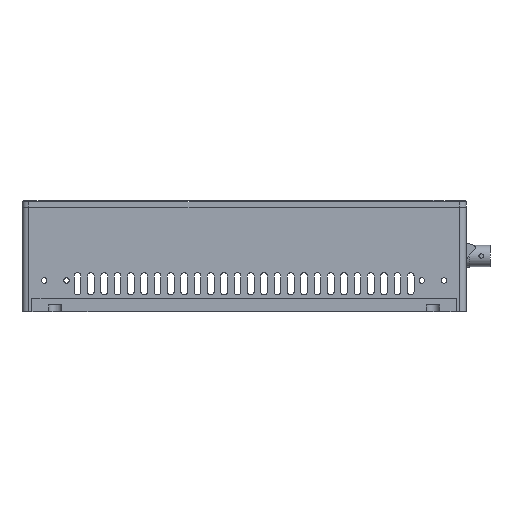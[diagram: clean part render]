
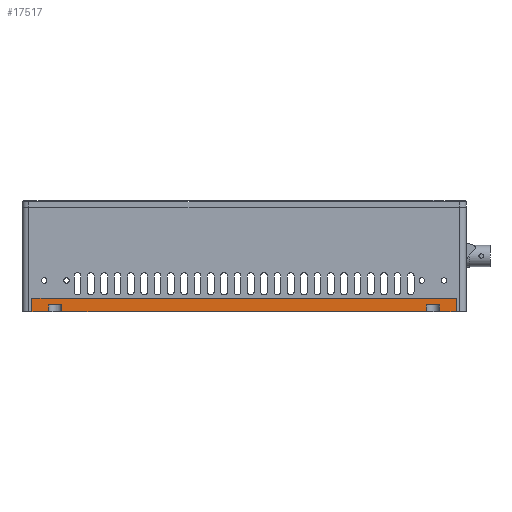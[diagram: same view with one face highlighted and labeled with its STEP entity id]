
A CAD part, left-side view. The second image highlights one B-rep face of the part: STEP entity #17517.
In plain terms, the highlighted planar face has unit normal (-1, 0, 0).
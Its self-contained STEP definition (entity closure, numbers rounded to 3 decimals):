
#454 = EDGE_CURVE ( 'NONE', #18395, #8575, #20760, .T. ) ;
#650 = AXIS2_PLACEMENT_3D ( 'NONE', #16638, #32799, #21778 ) ;
#853 = DIRECTION ( 'NONE',  ( 0., 0., -1. ) ) ;
#1071 = CARTESIAN_POINT ( 'NONE',  ( -231.129, 161.443, -30.083 ) ) ;
#1220 = ORIENTED_EDGE ( 'NONE', *, *, #4046, .F. ) ;
#2297 = ORIENTED_EDGE ( 'NONE', *, *, #27422, .F. ) ;
#2399 = ORIENTED_EDGE ( 'NONE', *, *, #13377, .F. ) ;
#2438 = VERTEX_POINT ( 'NONE', #12814 ) ;
#2510 = LINE ( 'NONE', #34519, #3325 ) ;
#2571 = DIRECTION ( 'NONE',  ( 0., 0., -1. ) ) ;
#2602 = CARTESIAN_POINT ( 'NONE',  ( -231.129, -8.557, -33.083 ) ) ;
#2793 = DIRECTION ( 'NONE',  ( 0., -1., 0. ) ) ;
#3045 = PLANE ( 'NONE',  #650 ) ;
#3325 = VECTOR ( 'NONE', #7406, 1000. ) ;
#3592 = VERTEX_POINT ( 'NONE', #29631 ) ;
#4046 = EDGE_CURVE ( 'NONE', #21463, #25706, #11683, .T. ) ;
#5296 = ORIENTED_EDGE ( 'NONE', *, *, #25134, .T. ) ;
#5408 = VECTOR ( 'NONE', #7493, 1000. ) ;
#6661 = CARTESIAN_POINT ( 'NONE',  ( -231.129, 155.443, -33.083 ) ) ;
#6726 = DIRECTION ( 'NONE',  ( 0., 0., -1. ) ) ;
#7157 = ORIENTED_EDGE ( 'NONE', *, *, #31898, .F. ) ;
#7259 = CARTESIAN_POINT ( 'NONE',  ( -231.129, 161.443, -30.083 ) ) ;
#7406 = DIRECTION ( 'NONE',  ( 0., 0., -1. ) ) ;
#7493 = DIRECTION ( 'NONE',  ( 0., -1., 0. ) ) ;
#7736 = CARTESIAN_POINT ( 'NONE',  ( -231.129, 168.943, -27.083 ) ) ;
#8323 = VERTEX_POINT ( 'NONE', #22145 ) ;
#8575 = VERTEX_POINT ( 'NONE', #2602 ) ;
#8914 = EDGE_CURVE ( 'NONE', #18739, #18395, #22932, .T. ) ;
#9092 = ORIENTED_EDGE ( 'NONE', *, *, #16746, .T. ) ;
#9095 = VERTEX_POINT ( 'NONE', #15320 ) ;
#9141 = DIRECTION ( 'NONE',  ( 0., -1., 0. ) ) ;
#9517 = VECTOR ( 'NONE', #6726, 1000. ) ;
#9740 = ORIENTED_EDGE ( 'NONE', *, *, #8914, .T. ) ;
#10114 = CARTESIAN_POINT ( 'NONE',  ( -231.129, -22.057, -33.083 ) ) ;
#10253 = LINE ( 'NONE', #33004, #29409 ) ;
#11683 = LINE ( 'NONE', #34345, #33379 ) ;
#12561 = VECTOR ( 'NONE', #33739, 1000. ) ;
#12717 = VECTOR ( 'NONE', #9141, 1000. ) ;
#12766 = CARTESIAN_POINT ( 'NONE',  ( -231.129, -22.057, -33.083 ) ) ;
#12783 = ORIENTED_EDGE ( 'NONE', *, *, #34069, .T. ) ;
#12814 = CARTESIAN_POINT ( 'NONE',  ( -231.129, 161.443, -30.083 ) ) ;
#13323 = CARTESIAN_POINT ( 'NONE',  ( -231.129, 168.943, -33.083 ) ) ;
#13377 = EDGE_CURVE ( 'NONE', #25706, #8575, #34101, .T. ) ;
#13423 = CARTESIAN_POINT ( 'NONE',  ( -231.129, -8.557, -30.083 ) ) ;
#13489 = EDGE_CURVE ( 'NONE', #17451, #9095, #10253, .T. ) ;
#14577 = LINE ( 'NONE', #22487, #31592 ) ;
#14622 = CARTESIAN_POINT ( 'NONE',  ( -231.129, -14.557, -30.083 ) ) ;
#14840 = DIRECTION ( 'NONE',  ( 0., 0., -1. ) ) ;
#14852 = LINE ( 'NONE', #25459, #12717 ) ;
#15266 = DIRECTION ( 'NONE',  ( 0., 0., -1. ) ) ;
#15320 = CARTESIAN_POINT ( 'NONE',  ( -231.129, -22.057, -33.083 ) ) ;
#15700 = ORIENTED_EDGE ( 'NONE', *, *, #29048, .F. ) ;
#16296 = CARTESIAN_POINT ( 'NONE',  ( -231.129, -14.557, -33.083 ) ) ;
#16638 = CARTESIAN_POINT ( 'NONE',  ( -231.129, -22.057, -27.083 ) ) ;
#16746 = EDGE_CURVE ( 'NONE', #19573, #29690, #2510, .T. ) ;
#17451 = VERTEX_POINT ( 'NONE', #16296 ) ;
#17517 = ADVANCED_FACE ( 'NONE', ( #34365 ), #3045, .F. ) ;
#17730 = VECTOR ( 'NONE', #15266, 1000. ) ;
#18395 = VERTEX_POINT ( 'NONE', #6661 ) ;
#18739 = VERTEX_POINT ( 'NONE', #30097 ) ;
#19573 = VERTEX_POINT ( 'NONE', #7736 ) ;
#20291 = CARTESIAN_POINT ( 'NONE',  ( -231.129, 155.443, -30.083 ) ) ;
#20594 = ORIENTED_EDGE ( 'NONE', *, *, #22582, .F. ) ;
#20760 = LINE ( 'NONE', #10114, #5408 ) ;
#21463 = VERTEX_POINT ( 'NONE', #29138 ) ;
#21778 = DIRECTION ( 'NONE',  ( 0., 0., -1. ) ) ;
#21857 = VECTOR ( 'NONE', #26306, 1000. ) ;
#21904 = LINE ( 'NONE', #14622, #9517 ) ;
#22145 = CARTESIAN_POINT ( 'NONE',  ( -231.129, -22.057, -27.083 ) ) ;
#22487 = CARTESIAN_POINT ( 'NONE',  ( -231.129, -22.057, -27.083 ) ) ;
#22582 = EDGE_CURVE ( 'NONE', #19573, #8323, #14852, .T. ) ;
#22932 = LINE ( 'NONE', #20291, #30981 ) ;
#22978 = ORIENTED_EDGE ( 'NONE', *, *, #454, .T. ) ;
#25134 = EDGE_CURVE ( 'NONE', #29690, #3592, #29079, .T. ) ;
#25459 = CARTESIAN_POINT ( 'NONE',  ( -231.129, -22.057, -27.083 ) ) ;
#25706 = VERTEX_POINT ( 'NONE', #28874 ) ;
#26042 = VECTOR ( 'NONE', #2571, 1000. ) ;
#26306 = DIRECTION ( 'NONE',  ( 0., -1., 0. ) ) ;
#27422 = EDGE_CURVE ( 'NONE', #18739, #2438, #34243, .T. ) ;
#28874 = CARTESIAN_POINT ( 'NONE',  ( -231.129, -8.557, -30.083 ) ) ;
#29048 = EDGE_CURVE ( 'NONE', #8323, #9095, #14577, .T. ) ;
#29079 = LINE ( 'NONE', #12766, #21857 ) ;
#29138 = CARTESIAN_POINT ( 'NONE',  ( -231.129, -14.557, -30.083 ) ) ;
#29409 = VECTOR ( 'NONE', #2793, 1000. ) ;
#29631 = CARTESIAN_POINT ( 'NONE',  ( -231.129, 161.443, -33.083 ) ) ;
#29690 = VERTEX_POINT ( 'NONE', #13323 ) ;
#30097 = CARTESIAN_POINT ( 'NONE',  ( -231.129, 155.443, -30.083 ) ) ;
#30981 = VECTOR ( 'NONE', #14840, 1000. ) ;
#31252 = EDGE_LOOP ( 'NONE', ( #5296, #7157, #2297, #9740, #22978, #2399, #1220, #12783, #33940, #15700, #20594, #9092 ) ) ;
#31377 = DIRECTION ( 'NONE',  ( 0., 1., 0. ) ) ;
#31592 = VECTOR ( 'NONE', #853, 1000. ) ;
#31898 = EDGE_CURVE ( 'NONE', #2438, #3592, #33455, .T. ) ;
#32799 = DIRECTION ( 'NONE',  ( 1., 0., 0. ) ) ;
#33004 = CARTESIAN_POINT ( 'NONE',  ( -231.129, -22.057, -33.083 ) ) ;
#33379 = VECTOR ( 'NONE', #31377, 1000. ) ;
#33455 = LINE ( 'NONE', #7259, #17730 ) ;
#33739 = DIRECTION ( 'NONE',  ( 0., 1., 0. ) ) ;
#33940 = ORIENTED_EDGE ( 'NONE', *, *, #13489, .T. ) ;
#34069 = EDGE_CURVE ( 'NONE', #21463, #17451, #21904, .T. ) ;
#34101 = LINE ( 'NONE', #13423, #26042 ) ;
#34243 = LINE ( 'NONE', #1071, #12561 ) ;
#34345 = CARTESIAN_POINT ( 'NONE',  ( -231.129, -8.557, -30.083 ) ) ;
#34365 = FACE_OUTER_BOUND ( 'NONE', #31252, .T. ) ;
#34519 = CARTESIAN_POINT ( 'NONE',  ( -231.129, 168.943, -27.083 ) ) ;
